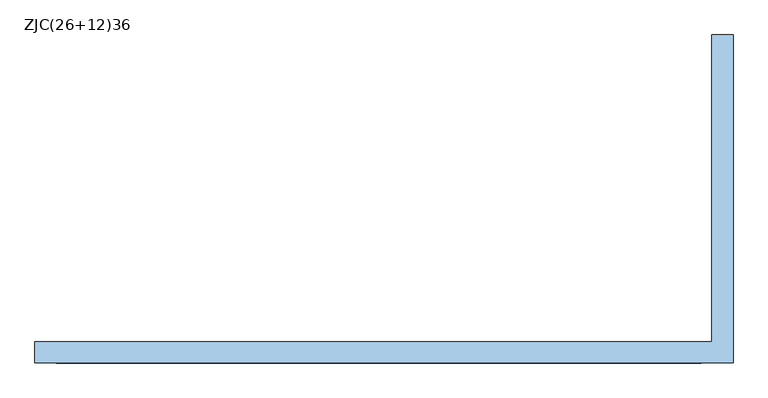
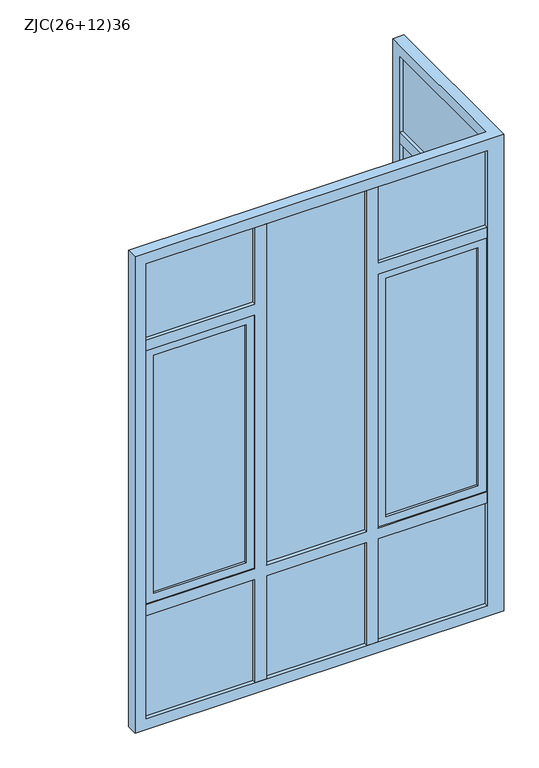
"""IFC4 building model written with IfcOpenShell, lengths in millimetres: window geometry, 转角窗 安荣伟 : ZJC(26+12)36."""

from ifc_helpers import new_model, si_unit, frame, origin, place, context, project, spatial, polyline, outline, extrude, faceted_brep, source, transform, mapped, element, save


def zjc_26_12_36_c5fe944f(model_context):
    return source(origin(), model_context, "Body", "SolidModel", [
        faceted_brep([(-2600.0, -40.0, 3600.0), (-2600.0, -40.0, 0.0), (40.0, -40.0, 0.0), (40.0, -40.0, 3600.0), (-80.0, -40.0, 3520.0), (-80.0, -40.0, 80.0), (-2520.0, -40.0, 80.0), (-2520.0, -40.0, 3520.0), (-2600.0, 40.0, 0.0), (-2600.0, 40.0, 3600.0), (-40.0, 40.0, 3600.0), (-40.0, 40.0, 3520.0), (40.0, 40.0, 3520.0), (40.0, 40.0, 80.0), (-40.0, 40.0, 80.0), (-40.0, 40.0, 0.0), (-80.0, 40.0, 3520.0), (-2520.0, 40.0, 3520.0), (-2520.0, 40.0, 80.0), (-80.0, 40.0, 80.0), (40.0, 1200.0, 3600.0), (-40.0, 1200.0, 3600.0), (-40.0, 1200.0, 0.0), (40.0, 1200.0, 0.0), (40.0, 1120.0, 3520.0), (40.0, 1120.0, 80.0), (-40.0, 1120.0, 80.0), (-40.0, 1120.0, 3520.0)], [[[0, 1, 2, 3], [4, 5, 6, 7]], [[8, 9, 10, 11, 12, 13, 14, 15], [16, 17, 18, 19]], [[9, 0, 3, 20, 21, 10]], [[1, 0, 9, 8]], [[2, 1, 8, 15, 22, 23]], [[5, 4, 16, 19]], [[6, 5, 19, 18]], [[7, 6, 18, 17]], [[4, 7, 17, 16]], [[20, 3, 2, 23], [24, 25, 13, 12]], [[21, 22, 15, 14, 26, 27, 11, 10]], [[20, 23, 22, 21]], [[25, 24, 27, 26]], [[14, 13, 25, 26]], [[24, 12, 11, 27]]]),
        extrude(outline(polyline([(3520.0, -1660.0), (3520.0, -1740.0), (2940.0, -1740.0), (2940.0, -2520.0), (2860.0, -2520.0), (2860.0, -1740.0), (940.0, -1740.0), (940.0, -2520.0), (860.0, -2520.0), (860.0, -1740.0), (80.0, -1740.0), (80.0, -1660.0), (860.0, -1660.0), (860.0, -940.0), (80.0, -940.0), (80.0, -860.0), (860.0, -860.0), (860.0, -80.0), (940.0, -80.0), (940.0, -860.0), (2860.0, -860.0), (2860.0, -80.0), (2940.0, -80.0), (2940.0, -860.0), (3520.0, -860.0), (3520.0, -940.0), (940.0, -940.0), (940.0, -1660.0), (3520.0, -1660.0)])), frame((0.0, -40.0, 0.0), z_axis=(0.0, 1.0, 0.0), x_axis=(0.0, 0.0, 1.0)), (0.0, 0.0, 1.0), 80.0),
        extrude(outline(polyline([(-6.0, 1120.0), (-6.0, 40.0), (-12.0, 40.0), (-12.0, 1120.0), (-6.0, 1120.0)])), frame((0.0, 0.0, 2940.0), z_axis=(0.0, 0.0, 1.0), x_axis=(1.0, 0.0, 0.0)), (0.0, 0.0, 1.0), 580.0),
        extrude(outline(polyline([(-6.0, 1120.0), (-6.0, 40.0), (-12.0, 40.0), (-12.0, 1120.0), (-6.0, 1120.0)])), frame((0.0, 0.0, 940.0), z_axis=(0.0, 0.0, 1.0), x_axis=(1.0, 0.0, 0.0)), (0.0, 0.0, 1.0), 1920.0),
        extrude(outline(polyline([(-6.0, 1120.0), (-6.0, 40.0), (-12.0, 40.0), (-12.0, 1120.0), (-6.0, 1120.0)])), frame((0.0, 0.0, 80.0), z_axis=(0.0, 0.0, 1.0), x_axis=(1.0, 0.0, 0.0)), (0.0, 0.0, 1.0), 780.0),
        extrude(outline(polyline([(12.0, 1120.0), (12.0, 40.0), (6.0, 40.0), (6.0, 1120.0), (12.0, 1120.0)])), frame((0.0, 0.0, 2940.0), z_axis=(0.0, 0.0, 1.0), x_axis=(1.0, 0.0, 0.0)), (0.0, 0.0, 1.0), 580.0),
        extrude(outline(polyline([(12.0, 1120.0), (12.0, 40.0), (6.0, 40.0), (6.0, 1120.0), (12.0, 1120.0)])), frame((0.0, 0.0, 940.0), z_axis=(0.0, 0.0, 1.0), x_axis=(1.0, 0.0, 0.0)), (0.0, 0.0, 1.0), 1920.0),
        extrude(outline(polyline([(12.0, 1120.0), (12.0, 40.0), (6.0, 40.0), (6.0, 1120.0), (12.0, 1120.0)])), frame((0.0, 0.0, 80.0), z_axis=(0.0, 0.0, 1.0), x_axis=(1.0, 0.0, 0.0)), (0.0, 0.0, 1.0), 780.0),
        extrude(outline(polyline([(-1740.0, 6.0), (-2520.0, 6.0), (-2520.0, 12.0), (-1740.0, 12.0), (-1740.0, 6.0)])), frame((0.0, 0.0, 2940.0), z_axis=(0.0, 0.0, 1.0), x_axis=(1.0, 0.0, 0.0)), (0.0, 0.0, 1.0), 580.0),
        extrude(outline(polyline([(-1800.0, 6.0), (-2460.0, 6.0), (-2460.0, 12.0), (-1800.0, 12.0), (-1800.0, 6.0)])), frame((0.0, 0.0, 1000.0), z_axis=(0.0, 0.0, 1.0), x_axis=(1.0, 0.0, 0.0)), (0.0, 0.0, 1.0), 1800.0),
        extrude(outline(polyline([(-940.0, 6.0), (-1660.0, 6.0), (-1660.0, 12.0), (-940.0, 12.0), (-940.0, 6.0)])), frame((0.0, 0.0, 940.0), z_axis=(0.0, 0.0, 1.0), x_axis=(1.0, 0.0, 0.0)), (0.0, 0.0, 1.0), 2580.0),
        extrude(outline(polyline([(-80.0, 6.0), (-860.0, 6.0), (-860.0, 12.0), (-80.0, 12.0), (-80.0, 6.0)])), frame((0.0, 0.0, 2940.0), z_axis=(0.0, 0.0, 1.0), x_axis=(1.0, 0.0, 0.0)), (0.0, 0.0, 1.0), 580.0),
        extrude(outline(polyline([(-140.0, 6.0), (-800.0, 6.0), (-800.0, 12.0), (-140.0, 12.0), (-140.0, 6.0)])), frame((0.0, 0.0, 1000.0), z_axis=(0.0, 0.0, 1.0), x_axis=(1.0, 0.0, 0.0)), (0.0, 0.0, 1.0), 1800.0),
        extrude(outline(polyline([(-1740.0, 6.0), (-2520.0, 6.0), (-2520.0, 12.0), (-1740.0, 12.0), (-1740.0, 6.0)])), frame((0.0, 0.0, 80.0), z_axis=(0.0, 0.0, 1.0), x_axis=(1.0, 0.0, 0.0)), (0.0, 0.0, 1.0), 780.0),
        extrude(outline(polyline([(-940.0, 6.0), (-1660.0, 6.0), (-1660.0, 12.0), (-940.0, 12.0), (-940.0, 6.0)])), frame((0.0, 0.0, 80.0), z_axis=(0.0, 0.0, 1.0), x_axis=(1.0, 0.0, 0.0)), (0.0, 0.0, 1.0), 780.0),
        extrude(outline(polyline([(-80.0, 6.0), (-860.0, 6.0), (-860.0, 12.0), (-80.0, 12.0), (-80.0, 6.0)])), frame((0.0, 0.0, 80.0), z_axis=(0.0, 0.0, 1.0), x_axis=(1.0, 0.0, 0.0)), (0.0, 0.0, 1.0), 780.0),
        extrude(outline(polyline([(-1740.0, -12.0), (-2520.0, -12.0), (-2520.0, -6.0), (-1740.0, -6.0), (-1740.0, -12.0)])), frame((0.0, 0.0, 2940.0), z_axis=(0.0, 0.0, 1.0), x_axis=(1.0, 0.0, 0.0)), (0.0, 0.0, 1.0), 580.0),
        extrude(outline(polyline([(-1800.0, -12.0), (-2460.0, -12.0), (-2460.0, -6.0), (-1800.0, -6.0), (-1800.0, -12.0)])), frame((0.0, 0.0, 1000.0), z_axis=(0.0, 0.0, 1.0), x_axis=(1.0, 0.0, 0.0)), (0.0, 0.0, 1.0), 1800.0),
        extrude(outline(polyline([(-940.0, -12.0), (-1660.0, -12.0), (-1660.0, -6.0), (-940.0, -6.0), (-940.0, -12.0)])), frame((0.0, 0.0, 940.0), z_axis=(0.0, 0.0, 1.0), x_axis=(1.0, 0.0, 0.0)), (0.0, 0.0, 1.0), 2580.0),
        extrude(outline(polyline([(-80.0, -12.0), (-860.0, -12.0), (-860.0, -6.0), (-80.0, -6.0), (-80.0, -12.0)])), frame((0.0, 0.0, 2940.0), z_axis=(0.0, 0.0, 1.0), x_axis=(1.0, 0.0, 0.0)), (0.0, 0.0, 1.0), 580.0),
        extrude(outline(polyline([(-140.0, -12.0), (-800.0, -12.0), (-800.0, -6.0), (-140.0, -6.0), (-140.0, -12.0)])), frame((0.0, 0.0, 1000.0), z_axis=(0.0, 0.0, 1.0), x_axis=(1.0, 0.0, 0.0)), (0.0, 0.0, 1.0), 1800.0),
        extrude(outline(polyline([(-1740.0, -12.0), (-2520.0, -12.0), (-2520.0, -6.0), (-1740.0, -6.0), (-1740.0, -12.0)])), frame((0.0, 0.0, 80.0), z_axis=(0.0, 0.0, 1.0), x_axis=(1.0, 0.0, 0.0)), (0.0, 0.0, 1.0), 780.0),
        extrude(outline(polyline([(-940.0, -12.0), (-1660.0, -12.0), (-1660.0, -6.0), (-940.0, -6.0), (-940.0, -12.0)])), frame((0.0, 0.0, 80.0), z_axis=(0.0, 0.0, 1.0), x_axis=(1.0, 0.0, 0.0)), (0.0, 0.0, 1.0), 780.0),
        extrude(outline(polyline([(-80.0, -12.0), (-860.0, -12.0), (-860.0, -6.0), (-80.0, -6.0), (-80.0, -12.0)])), frame((0.0, 0.0, 80.0), z_axis=(0.0, 0.0, 1.0), x_axis=(1.0, 0.0, 0.0)), (0.0, 0.0, 1.0), 780.0),
        extrude(outline(polyline([(40.0, 1120.0), (40.0, 40.0), (-40.0, 40.0), (-40.0, 1120.0), (40.0, 1120.0)])), frame((0.0, 0.0, 2860.0), z_axis=(0.0, 0.0, 1.0), x_axis=(1.0, 0.0, 0.0)), (0.0, 0.0, 1.0), 80.0),
        extrude(outline(polyline([(40.0, 1120.0), (40.0, 40.0), (-40.0, 40.0), (-40.0, 1120.0), (40.0, 1120.0)])), frame((0.0, 0.0, 860.0), z_axis=(0.0, 0.0, 1.0), x_axis=(1.0, 0.0, 0.0)), (0.0, 0.0, 1.0), 80.0),
        extrude(outline(polyline([(2860.0, -1740.0), (2860.0, -2520.0), (940.0, -2520.0), (940.0, -1740.0), (2860.0, -1740.0)]), holes=[polyline([(2800.0, -1800.0), (1000.0, -1800.0), (1000.0, -2460.0), (2800.0, -2460.0), (2800.0, -1800.0)])]), frame((0.0, -30.0, 0.0), z_axis=(0.0, 1.0, 0.0), x_axis=(0.0, 0.0, 1.0)), (0.0, 0.0, 1.0), 60.0),
        extrude(outline(polyline([(2860.0, -80.0), (2860.0, -860.0), (940.0, -860.0), (940.0, -80.0), (2860.0, -80.0)]), holes=[polyline([(2800.0, -140.0), (1000.0, -140.0), (1000.0, -800.0), (2800.0, -800.0), (2800.0, -140.0)])]), frame((0.0, -30.0, 0.0), z_axis=(0.0, 1.0, 0.0), x_axis=(0.0, 0.0, 1.0)), (0.0, 0.0, 1.0), 60.0),
    ])


if __name__ == "__main__":
    model = new_model("IFC4")
    model_context = context("Model", 3, world=origin())
    ifc_project = project(units=[si_unit("LENGTHUNIT", "METRE", prefix="MILLI")], contexts=[model_context])
    site = spatial("IfcSite", under=ifc_project)
    building = spatial("IfcBuilding", under=site)
    placement = place(None, origin())
    zjc_26_12_36_shape = zjc_26_12_36_c5fe944f(model_context)
    element("IfcWindow", 1, ObjectType="转角窗 安荣伟 : ZJC(26+12)36", at=placement, inside=building, context=model_context, shape_type="MappedRepresentation", body=[
        mapped(zjc_26_12_36_shape, transform((0.0, 0.0, 0.0), x_axis=(1.0, 0.0, 0.0), y_axis=(0.0, 1.0, 0.0), z_axis=(0.0, 0.0, 1.0))),
    ])
    save(model, "model.ifc")
